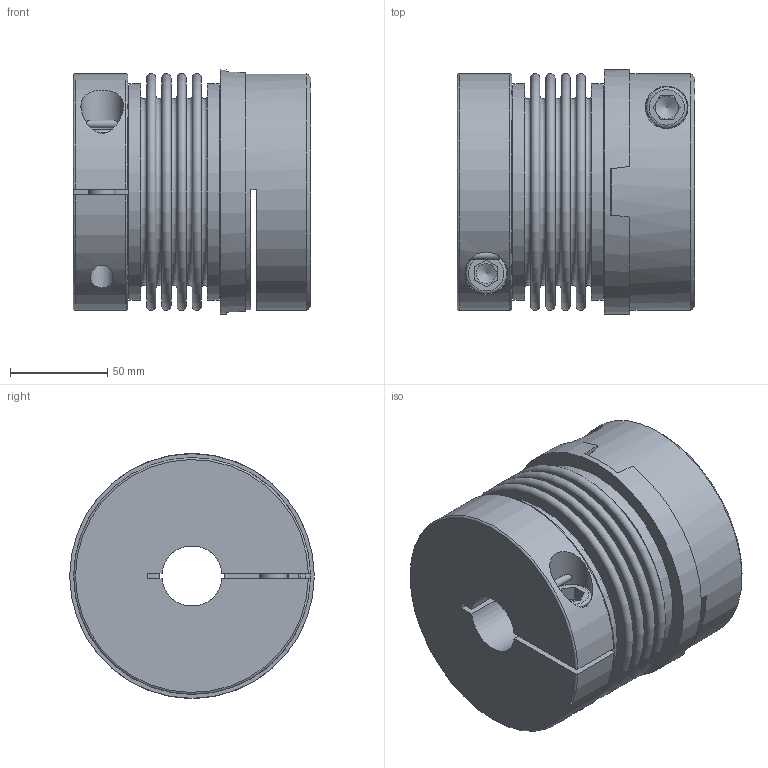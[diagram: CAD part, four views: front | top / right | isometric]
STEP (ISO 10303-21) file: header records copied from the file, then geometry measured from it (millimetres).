
FILE_DESCRIPTION( ( 'Unknown' ), '1' );
FILE_NAME( 'F:/JAKOB-STEP+IGES-Dateien/STEP-Dateien/KPP/KPP 600.stp', 'Unknown', ( 'Unknown' ), ( 'Unknown' ), 'PSStep 10.1', 'Unknown', ' ' );
FILE_SCHEMA( ( 'AUTOMOTIVE_DESIGN { 1 0 10303 214 1 1 1 1 }' ) );
Length unit declared in the file: millimetre
Products named in the file (1): 21221940-ohne Einrollnut
Bounding box: 122.5 x 126 x 126 mm (x, y, z)
Volume: 875825.4 mm3; surface area: 218848 mm2
Topology: 1 solids, 1 shells, 145 faces, 340 edges, 224 vertices
Faces by surface type: plane 88, cylinder 25, torus 24, cone 6, bspline 2
Full cylindrical faces by diameter (mm): 12 x2, 14 x2, 15 x2, 21 x2, 22 x2, 34 x1, 71 x1, 110 x2, 111.6 x2, 122 x1, 126 x1
Entity records: 5550 total; most frequent: CARTESIAN_POINT 1193, DIRECTION 694, ORIENTED_EDGE 560, AXIS2_PLACEMENT_3D 283, EDGE_CURVE 280, EDGE_LOOP 224, VERTEX_POINT 208, FACE_OUTER_BOUND 183
